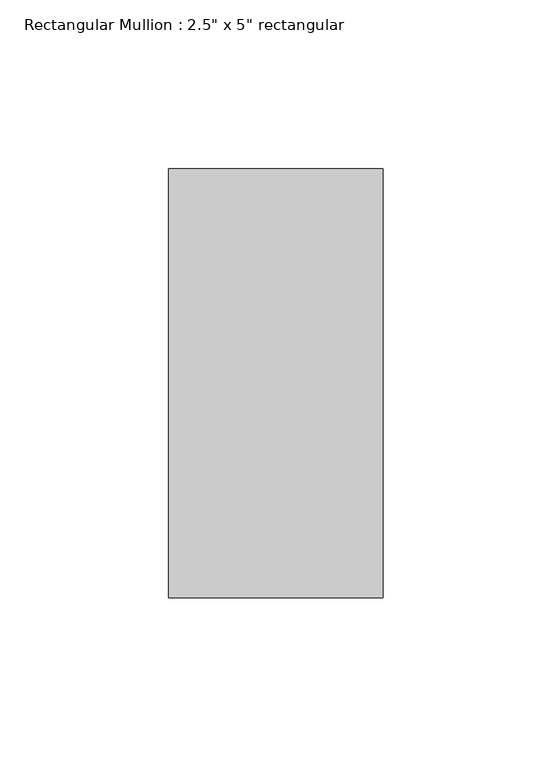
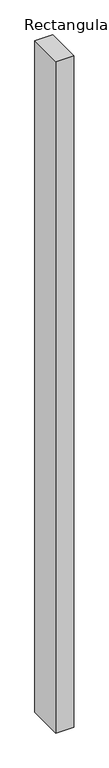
"""IFC4 building model written with IfcOpenShell, lengths in millimetres: member geometry."""

from ifc_helpers import new_model, si_unit, frame, origin, place, context, project, spatial, polyline, outline, extrude, source, transform, mapped, element, save


def member_605e1044(model_context):
    return source(origin(), model_context, "Body", "SweptSolid", [
        extrude(outline(polyline([(31.75, 63.5), (31.75, -63.5), (-31.75, -63.5), (-31.75, 63.5), (31.75, 63.5)])), frame((0.0, 0.0, -2492.375), z_axis=(0.0, 0.0, 1.0), x_axis=(1.0, 0.0, 0.0)), (0.0, 0.0, 1.0), 2492.375),
    ])


if __name__ == "__main__":
    model = new_model("IFC4")
    model_context = context("Model", 3, world=origin())
    ifc_project = project(units=[si_unit("LENGTHUNIT", "METRE", prefix="MILLI")], contexts=[model_context])
    site = spatial("IfcSite", under=ifc_project)
    building = spatial("IfcBuilding", under=site)
    placement = place(None, origin())
    member_shape = member_605e1044(model_context)
    element("IfcMember", 1, ObjectType="Rectangular Mullion : 2.5\" x 5\" rectangular", at=placement, inside=building, context=model_context, shape_type="MappedRepresentation", body=[
        mapped(member_shape, transform((0.0, 0.0, 0.0), x_axis=(1.0, 0.0, 0.0), y_axis=(0.0, 1.0, 0.0), z_axis=(0.0, 0.0, 1.0))),
    ])
    save(model, "model.ifc")
